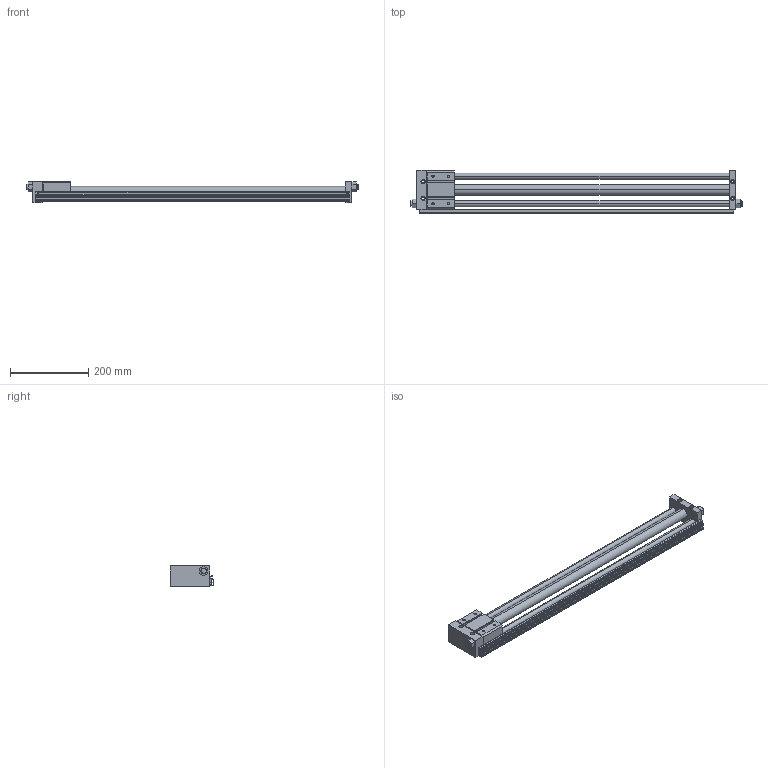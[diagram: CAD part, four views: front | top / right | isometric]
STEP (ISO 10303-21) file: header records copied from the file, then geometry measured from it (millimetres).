
FILE_DESCRIPTION((''),'2;1');
FILE_NAME('C:\Documents and Settings\Administrator\桌面\GYS\GYS25\GYSR25X700.stp','2012-03-06T10:24:41',('Administrator'),(''),'Autodesk Inventor 8','Autodesk Inventor 8','');
FILE_SCHEMA(('AUTOMOTIVE_DESIGN { 1 0 10303 214 1 1 1 1 }'));
Length unit declared in the file: millimetre
Products named in the file (3): GYSR25X700; GYS25X700; GYS25160X700
Assembly tree (2 placements, depth 2):
  GYSR25X700
    GYS25X700
    GYS25160X700
Bounding box: 847 x 110.5 x 54 mm (x, y, z)
Volume: 1331695.4 mm3; surface area: 297221.4 mm2
Topology: 2 solids, 2 shells, 276 faces, 718 edges, 468 vertices
Faces by surface type: plane 154, cylinder 80, cone 32, bspline 10
Entity records: 8662 total; most frequent: CARTESIAN_POINT 1609, DIRECTION 1476, ORIENTED_EDGE 1436, EDGE_CURVE 718, VECTOR 502, LINE 502, AXIS2_PLACEMENT_3D 487, VERTEX_POINT 468
